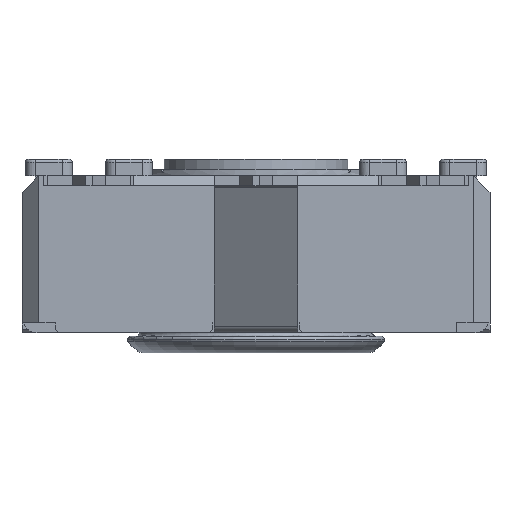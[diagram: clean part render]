
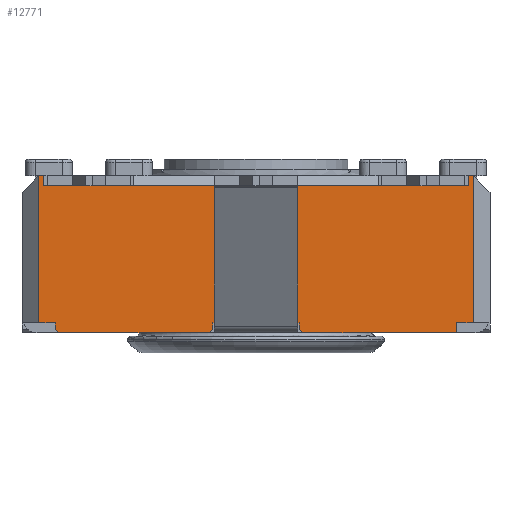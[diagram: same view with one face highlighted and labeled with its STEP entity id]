
A CAD part, front view. The second image highlights one B-rep face of the part: STEP entity #12771.
In plain terms, the highlighted planar face has unit normal (0, -1, 0).
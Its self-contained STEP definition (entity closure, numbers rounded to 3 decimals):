
#962=FACE_OUTER_BOUND('',#1631,.T.);
#1631=EDGE_LOOP('',(#9978,#9979,#9980,#9981,#9982,#9983,#9984,#9985,#9986,
#9987,#9988,#9989,#9990,#9991,#9992,#9993,#9994,#9995,#9996,#9997,#9998,
#9999,#10000,#10001,#10002,#10003,#10004));
#2025=LINE('',#17775,#3497);
#2027=LINE('',#17780,#3499);
#2103=LINE('',#17966,#3575);
#2142=LINE('',#18072,#3614);
#2147=LINE('',#18082,#3619);
#2209=LINE('',#18213,#3681);
#2216=LINE('',#18230,#3688);
#2345=LINE('',#18634,#3817);
#2360=LINE('',#18663,#3832);
#2428=LINE('',#18815,#3900);
#2436=LINE('',#18828,#3908);
#2554=LINE('',#19302,#4026);
#2761=LINE('',#19826,#4233);
#2766=LINE('',#19835,#4238);
#2769=LINE('',#19840,#4241);
#2857=LINE('',#20118,#4329);
#2865=LINE('',#20136,#4337);
#2871=LINE('',#20144,#4343);
#2872=LINE('',#20147,#4344);
#2873=LINE('',#20149,#4345);
#2874=LINE('',#20151,#4346);
#2875=LINE('',#20152,#4347);
#2876=LINE('',#20153,#4348);
#2877=LINE('',#20154,#4349);
#2878=LINE('',#20155,#4350);
#2879=LINE('',#20156,#4351);
#2880=LINE('',#20157,#4352);
#3497=VECTOR('',#14250,10.);
#3499=VECTOR('',#14254,10.);
#3575=VECTOR('',#14400,10.);
#3614=VECTOR('',#14481,10.);
#3619=VECTOR('',#14486,10.);
#3681=VECTOR('',#14598,10.);
#3688=VECTOR('',#14611,10.);
#3817=VECTOR('',#15036,10.);
#3832=VECTOR('',#15065,10.);
#3900=VECTOR('',#15215,10.);
#3908=VECTOR('',#15225,10.);
#4026=VECTOR('',#15485,10.);
#4233=VECTOR('',#15834,10.);
#4238=VECTOR('',#15839,10.);
#4241=VECTOR('',#15844,10.);
#4329=VECTOR('',#16070,10.);
#4337=VECTOR('',#16082,10.);
#4343=VECTOR('',#16092,10.);
#4344=VECTOR('',#16095,10.);
#4345=VECTOR('',#16096,10.);
#4346=VECTOR('',#16097,10.);
#4347=VECTOR('',#16098,10.);
#4348=VECTOR('',#16099,10.);
#4349=VECTOR('',#16100,10.);
#4350=VECTOR('',#16101,10.);
#4351=VECTOR('',#16102,10.);
#4352=VECTOR('',#16103,10.);
#4945=VERTEX_POINT('',#17763);
#4949=VERTEX_POINT('',#17773);
#4950=VERTEX_POINT('',#17777);
#4951=VERTEX_POINT('',#17779);
#4964=VERTEX_POINT('',#17811);
#5026=VERTEX_POINT('',#17965);
#5072=VERTEX_POINT('',#18071);
#5076=VERTEX_POINT('',#18079);
#5077=VERTEX_POINT('',#18081);
#5121=VERTEX_POINT('',#18211);
#5128=VERTEX_POINT('',#18229);
#5254=VERTEX_POINT('',#18631);
#5255=VERTEX_POINT('',#18633);
#5261=VERTEX_POINT('',#18660);
#5262=VERTEX_POINT('',#18662);
#5305=VERTEX_POINT('',#18814);
#5309=VERTEX_POINT('',#18826);
#5437=VERTEX_POINT('',#19298);
#5588=VERTEX_POINT('',#19825);
#5592=VERTEX_POINT('',#19833);
#5645=VERTEX_POINT('',#20116);
#5646=VERTEX_POINT('',#20117);
#5653=VERTEX_POINT('',#20134);
#5654=VERTEX_POINT('',#20135);
#5655=VERTEX_POINT('',#20146);
#5656=VERTEX_POINT('',#20148);
#5657=VERTEX_POINT('',#20150);
#6179=EDGE_CURVE('',#4945,#4949,#2025,.T.);
#6181=EDGE_CURVE('',#4951,#4950,#2027,.T.);
#6274=EDGE_CURVE('',#5026,#4964,#2103,.T.);
#6327=EDGE_CURVE('',#5072,#5026,#2142,.T.);
#6332=EDGE_CURVE('',#5077,#5076,#2147,.T.);
#6399=EDGE_CURVE('',#4950,#5121,#2209,.T.);
#6407=EDGE_CURVE('',#5128,#4951,#2216,.T.);
#6610=EDGE_CURVE('',#5255,#5254,#2345,.T.);
#6625=EDGE_CURVE('',#5262,#5261,#2360,.T.);
#6702=EDGE_CURVE('',#5305,#4945,#2428,.T.);
#6710=EDGE_CURVE('',#4949,#5309,#2436,.T.);
#6877=EDGE_CURVE('',#5262,#5437,#2554,.T.);
#7105=EDGE_CURVE('',#5588,#5437,#2761,.T.);
#7110=EDGE_CURVE('',#4964,#5592,#2766,.T.);
#7113=EDGE_CURVE('',#5077,#5254,#2769,.T.);
#7220=EDGE_CURVE('',#5645,#5646,#2857,.T.);
#7228=EDGE_CURVE('',#5653,#5654,#2865,.T.);
#7234=EDGE_CURVE('',#5072,#5645,#2871,.T.);
#7235=EDGE_CURVE('',#5592,#5655,#2872,.T.);
#7236=EDGE_CURVE('',#5656,#5655,#2873,.T.);
#7237=EDGE_CURVE('',#5656,#5657,#2874,.T.);
#7238=EDGE_CURVE('',#5657,#5588,#2875,.T.);
#7239=EDGE_CURVE('',#5261,#5305,#2876,.T.);
#7240=EDGE_CURVE('',#5128,#5309,#2877,.T.);
#7241=EDGE_CURVE('',#5121,#5255,#2878,.T.);
#7242=EDGE_CURVE('',#5076,#5654,#2879,.T.);
#7243=EDGE_CURVE('',#5653,#5646,#2880,.T.);
#9978=ORIENTED_EDGE('',*,*,#7220,.F.);
#9979=ORIENTED_EDGE('',*,*,#7234,.F.);
#9980=ORIENTED_EDGE('',*,*,#6327,.T.);
#9981=ORIENTED_EDGE('',*,*,#6274,.T.);
#9982=ORIENTED_EDGE('',*,*,#7110,.T.);
#9983=ORIENTED_EDGE('',*,*,#7235,.T.);
#9984=ORIENTED_EDGE('',*,*,#7236,.F.);
#9985=ORIENTED_EDGE('',*,*,#7237,.T.);
#9986=ORIENTED_EDGE('',*,*,#7238,.T.);
#9987=ORIENTED_EDGE('',*,*,#7105,.T.);
#9988=ORIENTED_EDGE('',*,*,#6877,.F.);
#9989=ORIENTED_EDGE('',*,*,#6625,.T.);
#9990=ORIENTED_EDGE('',*,*,#7239,.T.);
#9991=ORIENTED_EDGE('',*,*,#6702,.T.);
#9992=ORIENTED_EDGE('',*,*,#6179,.T.);
#9993=ORIENTED_EDGE('',*,*,#6710,.T.);
#9994=ORIENTED_EDGE('',*,*,#7240,.F.);
#9995=ORIENTED_EDGE('',*,*,#6407,.T.);
#9996=ORIENTED_EDGE('',*,*,#6181,.T.);
#9997=ORIENTED_EDGE('',*,*,#6399,.T.);
#9998=ORIENTED_EDGE('',*,*,#7241,.T.);
#9999=ORIENTED_EDGE('',*,*,#6610,.T.);
#10000=ORIENTED_EDGE('',*,*,#7113,.F.);
#10001=ORIENTED_EDGE('',*,*,#6332,.T.);
#10002=ORIENTED_EDGE('',*,*,#7242,.T.);
#10003=ORIENTED_EDGE('',*,*,#7228,.F.);
#10004=ORIENTED_EDGE('',*,*,#7243,.T.);
#11975=PLANE('',#13624);
#12771=ADVANCED_FACE('',(#962),#11975,.T.);
#13624=AXIS2_PLACEMENT_3D('',#20145,#16093,#16094);
#14250=DIRECTION('',(-1.,0.,0.));
#14254=DIRECTION('',(-1.,0.,0.));
#14400=DIRECTION('',(1.,0.,0.));
#14481=DIRECTION('',(1.,0.,0.));
#14486=DIRECTION('',(1.,0.,0.));
#14598=DIRECTION('',(-1.,0.,0.));
#14611=DIRECTION('',(-1.,0.,0.));
#15036=DIRECTION('',(-1.,0.,0.));
#15065=DIRECTION('',(-1.,0.,0.));
#15215=DIRECTION('',(-1.,0.,0.));
#15225=DIRECTION('',(-1.,0.,0.));
#15485=DIRECTION('',(0.,0.,-1.));
#15834=DIRECTION('',(1.,0.,0.));
#15839=DIRECTION('',(1.,0.,0.));
#15844=DIRECTION('',(0.,0.,1.));
#16070=DIRECTION('',(-0.707,0.,-0.707));
#16082=DIRECTION('',(-0.707,0.,0.707));
#16092=DIRECTION('',(0.,0.,-1.));
#16093=DIRECTION('center_axis',(0.,-1.,0.));
#16094=DIRECTION('ref_axis',(0.,0.,-1.));
#16095=DIRECTION('',(0.,0.,-1.));
#16096=DIRECTION('',(-0.707,0.,0.707));
#16097=DIRECTION('',(1.,0.,0.));
#16098=DIRECTION('',(0.,0.,1.));
#16099=DIRECTION('',(0.,0.,-1.));
#16100=DIRECTION('',(1.,0.,0.));
#16101=DIRECTION('',(0.,0.,1.));
#16102=DIRECTION('',(0.,0.,-1.));
#16103=DIRECTION('',(1.,0.,0.));
#17763=CARTESIAN_POINT('',(-1.217,-9.898,4.1));
#17773=CARTESIAN_POINT('',(-3.717,-9.898,4.1));
#17775=CARTESIAN_POINT('',(-1.862,-9.898,4.1));
#17777=CARTESIAN_POINT('',(-13.717,-9.898,4.1));
#17779=CARTESIAN_POINT('',(-11.217,-9.898,4.1));
#17780=CARTESIAN_POINT('',(-3.944,-9.898,4.1));
#17811=CARTESIAN_POINT('',(-6.217,-9.898,0.));
#17965=CARTESIAN_POINT('',(-8.717,-9.898,0.));
#17966=CARTESIAN_POINT('',(-14.467,-9.898,0.));
#18071=CARTESIAN_POINT('',(-8.767,-9.898,0.));
#18072=CARTESIAN_POINT('',(-14.467,-9.898,0.));
#18079=CARTESIAN_POINT('',(-13.467,-9.898,0.));
#18081=CARTESIAN_POINT('',(-13.967,-9.898,0.));
#18082=CARTESIAN_POINT('',(-7.245,-9.898,0.));
#18211=CARTESIAN_POINT('',(-13.817,-9.898,4.1));
#18213=CARTESIAN_POINT('',(-3.944,-9.898,4.1));
#18229=CARTESIAN_POINT('',(-11.117,-9.898,4.1));
#18230=CARTESIAN_POINT('',(-3.944,-9.898,4.1));
#18631=CARTESIAN_POINT('',(-13.967,-9.898,4.4));
#18633=CARTESIAN_POINT('',(-13.817,-9.898,4.4));
#18634=CARTESIAN_POINT('',(-14.467,-9.898,4.4));
#18660=CARTESIAN_POINT('',(-1.117,-9.898,4.4));
#18662=CARTESIAN_POINT('',(-0.967,-9.898,4.4));
#18663=CARTESIAN_POINT('',(-14.467,-9.898,4.4));
#18814=CARTESIAN_POINT('',(-1.117,-9.898,4.1));
#18815=CARTESIAN_POINT('',(-1.862,-9.898,4.1));
#18826=CARTESIAN_POINT('',(-3.817,-9.898,4.1));
#18828=CARTESIAN_POINT('',(-1.862,-9.898,4.1));
#19298=CARTESIAN_POINT('',(-0.967,-9.898,0.));
#19302=CARTESIAN_POINT('',(-0.967,-9.898,0.));
#19825=CARTESIAN_POINT('',(-1.467,-9.898,0.));
#19826=CARTESIAN_POINT('',(-0.646,-9.898,0.));
#19833=CARTESIAN_POINT('',(-6.167,-9.898,0.));
#19835=CARTESIAN_POINT('',(-14.467,-9.898,0.));
#19840=CARTESIAN_POINT('',(-13.967,-9.898,0.));
#20116=CARTESIAN_POINT('',(-8.767,-9.898,-0.2));
#20117=CARTESIAN_POINT('',(-8.867,-9.898,-0.3));
#20118=CARTESIAN_POINT('',(-6.667,-9.898,1.9));
#20134=CARTESIAN_POINT('',(-13.367,-9.898,-0.3));
#20135=CARTESIAN_POINT('',(-13.467,-9.898,-0.2));
#20136=CARTESIAN_POINT('',(-10.242,-9.898,-3.425));
#20144=CARTESIAN_POINT('',(-8.767,-9.898,0.));
#20145=CARTESIAN_POINT('Origin',(-0.467,-9.898,0.));
#20146=CARTESIAN_POINT('',(-6.167,-9.898,-0.2));
#20147=CARTESIAN_POINT('',(-6.167,-9.898,0.));
#20148=CARTESIAN_POINT('',(-6.067,-9.898,-0.3));
#20149=CARTESIAN_POINT('',(-4.767,-9.898,-1.6));
#20150=CARTESIAN_POINT('',(-1.467,-9.898,-0.3));
#20151=CARTESIAN_POINT('',(-0.467,-9.898,-0.3));
#20152=CARTESIAN_POINT('',(-1.467,-9.898,-0.15));
#20153=CARTESIAN_POINT('',(-1.117,-9.898,2.2));
#20154=CARTESIAN_POINT('',(-3.967,-9.898,4.1));
#20155=CARTESIAN_POINT('',(-13.817,-9.898,2.2));
#20156=CARTESIAN_POINT('',(-13.467,-9.898,-0.15));
#20157=CARTESIAN_POINT('',(-0.467,-9.898,-0.3));
